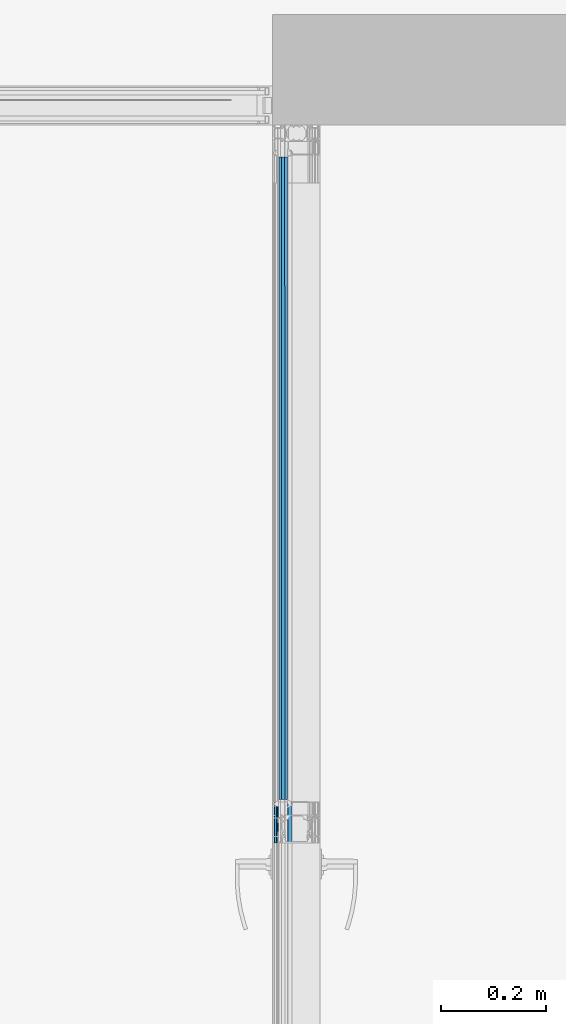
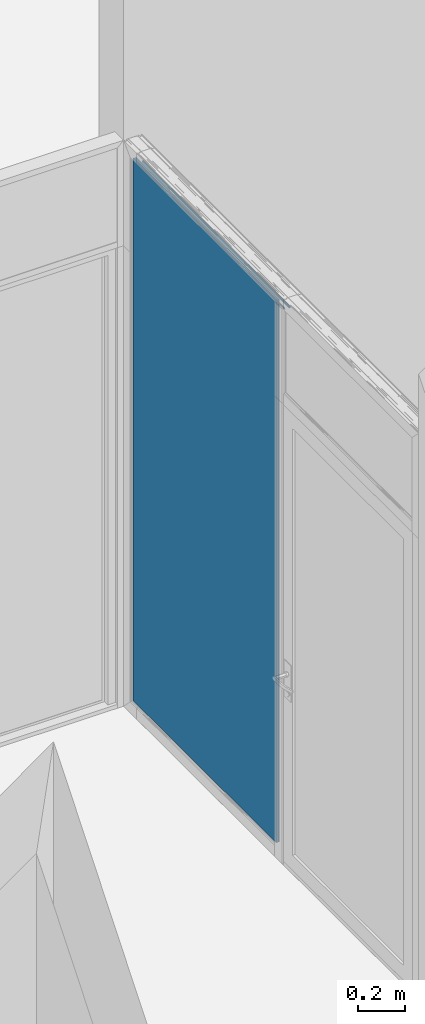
# One storey, part 46 of 62: 3 building element parts, 3 elements without a shape of their own.
"""IFC2X3 building model written with IfcOpenShell, lengths in millimetres."""

from ifc_helpers import new_model, entity, si_unit, converted_unit, derived_unit, money_unit, direction, frame, origin_with_axes, place, context, subcontext, project, spatial, faceted_brep, material, type_object, element, aggregate, save


model = new_model("IFC2X3")

# Units and contexts
model_context = context("Model", 3, precision=0.01, world=origin_with_axes(), true_north=direction((0.0, 1.0)))
body_context = subcontext(model_context, "Body", "Model", "MODEL_VIEW")
ifc_project = project(units=[si_unit("LENGTHUNIT", "METRE", prefix="MILLI"), si_unit("AREAUNIT", "SQUARE_METRE"), si_unit("VOLUMEUNIT", "CUBIC_METRE"), converted_unit("PLANEANGLEUNIT", "DEGREE", entity("IfcPlaneAngleMeasure", 0.0174532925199), si_unit("PLANEANGLEUNIT", "RADIAN"), dimensions=[0, 0, 0, 0, 0, 0, 0]), si_unit("SOLIDANGLEUNIT", "STERADIAN"), money_unit("EUR"), converted_unit("TIMEUNIT", "Year", entity("IfcTimeMeasure", 31556926.0), si_unit("TIMEUNIT", "SECOND"), dimensions=[0, 0, 1, 0, 0, 0, 0]), si_unit("MASSUNIT", "GRAM", prefix="KILO"), si_unit("THERMODYNAMICTEMPERATUREUNIT", "DEGREE_CELSIUS"), si_unit("LUMINOUSINTENSITYUNIT", "LUMEN"), si_unit("ENERGYUNIT", "JOULE", prefix="MEGA"), derived_unit("THERMALCONDUCTANCEUNIT", [(si_unit("POWERUNIT", "WATT"), 1), (si_unit("LENGTHUNIT", "METRE"), -1), (si_unit("THERMODYNAMICTEMPERATUREUNIT", "KELVIN"), -1)]), derived_unit("SPECIFICHEATCAPACITYUNIT", [(si_unit("ENERGYUNIT", "JOULE"), 1), (si_unit("MASSUNIT", "GRAM", prefix="KILO"), -1), (si_unit("THERMODYNAMICTEMPERATUREUNIT", "KELVIN"), -1)]), derived_unit("MASSDENSITYUNIT", [(si_unit("MASSUNIT", "GRAM", prefix="KILO"), 1), (si_unit("VOLUMEUNIT", "CUBIC_METRE"), -1)])], contexts=[model_context])

# Site, building, storey
site_placement = place(None, origin_with_axes())
site = spatial("IfcSite", under=ifc_project, at=site_placement, Name="Puškini 31, Narva", CompositionType="ELEMENT")
building_placement = place(site_placement, origin_with_axes())
building = spatial("IfcBuilding", under=site, at=building_placement, Name="Narva Riigigümnaasium", CompositionType="ELEMENT")
storey_placement = place(building_placement, frame((0.0, 0.0, 660.0), z_axis=(0.0, 0.0, 1.0), x_axis=(1.0, 0.0, 0.0)))
storey = spatial("IfcBuildingStorey", under=building, at=storey_placement, Name="2.korrus +0.66", CompositionType="ELEMENT", Elevation=660.0)

# Curtain wall, plate, building element parts, member
curtain_wall_type = type_object("IfcCurtainWallType", Name="Curtain Wall Type", PredefinedType="NOTDEFINED")
curtain_wall_placement = place(storey_placement, frame((47544.998162, 221675.502168, -2.45869393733e-05), z_axis=(0.0, 0.0, 1.0), x_axis=(1.0, 0.0, 0.0)))
curtain_wall = element("IfcCurtainWall", 1, at=curtain_wall_placement, inside=storey, type_object=curtain_wall_type, Name="G-SKLF-51")
plate_type = type_object("IfcPlateType", Name="79 x 519 x 20", PredefinedType="CURTAIN_PANEL")
plate_placement = place(curtain_wall_placement, frame((-0.00644162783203, 1502.05634572, 1516.66668033), z_axis=(0.0, 0.0, 1.0), x_axis=(-4.28853941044e-06, 0.999999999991, 0.0)))
plate = element("IfcPlate", 2, at=plate_placement, type_object=plate_type, Name="G-SKLF-51-klaas", ObjectType="CURTAIN_PANEL")
ifc_material_1 = material(Name="VKR-05_Klaas")
building_element_part_1_placement = place(plate_placement, origin_with_axes())
building_element_part_1 = element("IfcBuildingElementPart", 3, at=building_element_part_1_placement, material=ifc_material_1, Name="VKR-05_Klaas", context=body_context, shape_type="Brep", body=[
    faceted_brep([(-660.189357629, 17.0, 1372.16865298), (561.276938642, 17.0, 1372.16865298), (561.276938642, 22.0, 1372.16865298), (-660.189357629, 22.0, 1372.16865298), (-660.189357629, 17.0, -1455.50198905), (561.276938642, 17.0, -1455.50198905), (561.276938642, 22.0, -1455.50198905), (-660.189357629, 22.0, -1455.50198905)], [[[0, 1, 2, 3]], [[0, 4, 5, 1]], [[1, 5, 6, 2]], [[3, 2, 6, 7]], [[4, 0, 3, 7]], [[5, 4, 7, 6]]]),
    faceted_brep([(-660.189357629, 28.0, 1372.16865298), (561.276938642, 28.0, 1372.16865298), (561.276938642, 33.0, 1372.16865298), (-660.189357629, 33.0, 1372.16865298), (-660.189357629, 28.0, -1455.50198905), (561.276938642, 28.0, -1455.50198905), (561.276938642, 33.0, -1455.50198905), (-660.189357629, 33.0, -1455.50198905)], [[[0, 1, 2, 3]], [[0, 4, 5, 1]], [[1, 5, 6, 2]], [[3, 2, 6, 7]], [[4, 0, 3, 7]], [[5, 4, 7, 6]]]),
])
ifc_material_2 = material(Name="VKR-06_Õhkvahe")
building_element_part_2_placement = place(plate_placement, origin_with_axes())
building_element_part_2 = element("IfcBuildingElementPart", 4, at=building_element_part_2_placement, material=ifc_material_2, Name="VKR-06_Õhkvahe", context=body_context, shape_type="Brep", body=[
    faceted_brep([(-660.189357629, 22.0, 1372.16865298), (561.276938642, 22.0, 1372.16865298), (561.276938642, 28.0, 1372.16865298), (-660.189357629, 28.0, 1372.16865298), (-660.189357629, 22.0, -1455.50198905), (561.276938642, 22.0, -1455.50198905), (561.276938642, 28.0, -1455.50198905), (-660.189357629, 28.0, -1455.50198905)], [[[0, 1, 2, 3]], [[0, 4, 5, 1]], [[1, 5, 6, 2]], [[3, 2, 6, 7]], [[4, 0, 3, 7]], [[5, 4, 7, 6]]]),
])
aggregate(plate, [building_element_part_1, building_element_part_2])
member_type = type_object("IfcMemberType", Name="61 x 45", PredefinedType="MULLION")
member_placement = place(curtain_wall_placement, frame((-0.00325715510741, 759.502197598, 2950.00002459), z_axis=(-4.28853941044e-06, 0.999999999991, 0.0), x_axis=(0.0, 0.0, -1.0)))
member = element("IfcMember", 5, at=member_placement, type_object=member_type, Name="G-SKLF-69-raam", ObjectType="MULLION")
aggregate(curtain_wall, [member, plate])
ifc_material_3 = material(Name="Membraan - Veekindel")
building_element_part_3_placement = place(member_placement, origin_with_axes())
building_element_part_3 = element("IfcBuildingElementPart", 6, at=building_element_part_3_placement, material=ifc_material_3, Name="Membraan - Veekindel", context=body_context, shape_type="Brep", body=[
    faceted_brep([(61.0413385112, 34.3890442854, -4.50964250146e-07), (59.5800222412, 34.73794757, -4.50964250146e-07), (59.5800222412, 34.73794757, 1255.0), (61.0413385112, 34.3890442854, 1255.0), (61.1536677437, 34.1934467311, -4.50964250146e-07), (61.1423164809, 33.9681748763, -4.50964250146e-07), (61.0108941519, 33.784859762, -4.50964250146e-07), (60.7381535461, 33.9217644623, -4.50964250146e-07), (59.8409257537, 34.1343131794, -4.50964250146e-07), (58.2346494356, 34.5489145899, -4.50964250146e-07), (56.9567944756, 35.6067920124, -4.50964250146e-07), (56.2495873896, 37.1074172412, -4.50964250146e-07), (56.1542959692, 37.3107917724, -4.50964250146e-07), (55.9795989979, 37.4519392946, -4.50964250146e-07), (55.7607444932, 37.5023809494, -4.50964250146e-07), (55.1093263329, 37.5023809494, -4.50964250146e-07), (54.8593263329, 37.4353936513, -4.50964250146e-07), (54.676313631, 37.2523809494, -4.50964250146e-07), (54.2721684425, 36.5523809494, -4.50964250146e-07), (54.0891557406, 36.3693682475, -4.50964250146e-07), (53.8391557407, 36.3023809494, -4.50964250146e-07), (51.602145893, 36.3023809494, -4.50964250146e-07), (51.352145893, 36.3693682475, -4.50964250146e-07), (51.1691331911, 36.5523809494, -4.50964250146e-07), (50.7649880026, 37.2523809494, -4.50964250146e-07), (50.5819753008, 37.4353936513, -4.50964250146e-07), (50.3319753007, 37.5023809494, -4.50964250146e-07), (49.2206527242, 37.5023809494, -4.50964250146e-07), (48.9706527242, 37.5693682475, -4.50964250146e-07), (48.7876400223, 37.7523809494, -4.50964250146e-07), (48.7206527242, 38.0023809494, -4.50964250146e-07), (48.7206527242, 39.1999494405, -4.50964250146e-07), (50.10004, 39.1999494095, -4.50964250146e-07), (50.1670287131, 38.9499497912, -4.50964250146e-07), (50.3500424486, 38.7669381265, -4.50964250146e-07), (50.6000428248, 38.699952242, -4.50964250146e-07), (50.8500424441, 38.7669409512, -4.50964250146e-07), (51.0330541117, 38.9499546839, -4.50964250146e-07), (51.10004, 39.1999550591, -4.50964250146e-07), (51.10004, 40.4999366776, -4.50964250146e-07), (51.0598476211, 40.6499366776, -4.50964250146e-07), (50.95004, 40.7597442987, -4.50964250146e-07), (50.80004, 40.7999366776, -4.50964250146e-07), (50.7000457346, 40.7999366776, -4.50964250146e-07), (50.5334025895, 40.8504763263, -4.50964250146e-07), (50.4229059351, 40.9850671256, -4.50964250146e-07), (50.4057850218, 41.1583618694, -4.50964250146e-07), (50.4878083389, 41.3119729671, -4.50964250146e-07), (51.5281601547, 42.3533311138, -4.50964250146e-07), (51.6904310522, 42.4618421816, -4.50964250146e-07), (51.8818844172, 42.4999486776, -4.50964250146e-07), (53.517932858, 42.4999486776, -4.50964250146e-07), (53.7093558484, 42.4618547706, -4.50964250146e-07), (53.8716106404, 42.3533776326, -4.50964250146e-07), (54.9122350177, 41.3120206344, -4.50964250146e-07), (54.9942836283, 41.1584047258, -4.50964250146e-07), (54.9771753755, 40.9850924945, -4.50964250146e-07), (54.866675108, 40.850483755, -4.50964250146e-07), (54.7000173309, 40.7999366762, -4.50964250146e-07), (54.6000210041, 40.7999366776, -4.50964250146e-07), (54.4500210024, 40.7597443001, -4.50964250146e-07), (54.3402133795, 40.6499366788, -4.50964250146e-07), (54.300021, 40.4999366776, -4.50964250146e-07), (54.300021, 39.1999606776, -4.50964250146e-07), (54.3670082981, 38.9499606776, -4.50964250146e-07), (54.5500210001, 38.7669479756, -4.50964250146e-07), (54.8000210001, 38.6999606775, -4.50964250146e-07), (55.0500210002, 38.7669479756, -4.50964250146e-07), (55.2330337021, 38.9499606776, -4.50964250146e-07), (55.3000210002, 39.1999606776, -4.50964250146e-07), (57.3000022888, 39.1999494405, -4.50964250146e-07), (57.3000022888, 39.9999846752, -4.50964250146e-07), (57.5000161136, 39.946391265, -4.50964250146e-07), (57.6464370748, 39.799971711, -4.50964250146e-07), (57.7000324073, 39.5999584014, -4.50964250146e-07), (57.9693613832, 36.5265882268, -4.50964250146e-07), (58.4755028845, 35.3628499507, -4.50964250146e-07), (53.5000340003, 40.7999553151, -4.50964250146e-07), (53.4330491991, 41.0499459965, -4.50964250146e-07), (53.2500433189, 41.2329518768, -4.50964250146e-07), (53.0000526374, 41.299936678, -4.50964250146e-07), (52.4000083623, 41.299936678, -4.50964250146e-07), (52.150017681, 41.2329518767, -4.50964250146e-07), (51.9670118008, 41.0499459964, -4.50964250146e-07), (51.9000269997, 40.799955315, -4.50964250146e-07), (51.9000269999, 39.6999268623, -4.50964250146e-07), (51.9670129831, 39.4499317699, -4.50964250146e-07), (52.1500220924, 39.2669226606, -4.50964250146e-07), (52.4000171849, 39.1999366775, -4.50964250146e-07), (53.0000438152, 39.1999366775, -4.50964250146e-07), (53.2500389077, 39.2669226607, -4.50964250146e-07), (53.433048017, 39.44993177, -4.50964250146e-07), (58.4755028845, 35.3628499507, 1255.0), (57.9693613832, 36.5265882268, 1255.0), (57.7000324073, 39.5999584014, 1255.0), (57.6464370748, 39.799971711, 1255.0), (57.5000161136, 39.946391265, 1255.0), (57.3000022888, 39.9999846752, 1255.0), (57.3000022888, 39.1999494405, 1255.0), (55.3000210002, 39.1999606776, 1255.0), (55.2330337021, 38.9499606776, 1255.0), (55.0500210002, 38.7669479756, 1255.0), (54.8000210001, 38.6999606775, 1255.0), (54.5500210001, 38.7669479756, 1255.0), (54.3670082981, 38.9499606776, 1255.0), (54.300021, 39.1999606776, 1255.0), (54.300021, 40.4999366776, 1255.0), (54.3402133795, 40.6499366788, 1255.0), (54.4500210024, 40.7597443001, 1255.0), (54.6000210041, 40.7999366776, 1255.0), (54.7000173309, 40.7999366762, 1255.0), (54.866675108, 40.850483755, 1255.0), (54.9771753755, 40.9850924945, 1255.0), (54.9942836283, 41.1584047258, 1255.0), (54.9122350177, 41.3120206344, 1255.0), (53.8716106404, 42.3533776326, 1255.0), (53.7093558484, 42.4618547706, 1255.0), (53.517932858, 42.4999486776, 1255.0), (51.8818844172, 42.4999486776, 1255.0), (51.6904310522, 42.4618421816, 1255.0), (51.5281601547, 42.3533311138, 1255.0), (50.4878083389, 41.3119729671, 1255.0), (50.4057850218, 41.1583618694, 1255.0), (50.4229059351, 40.9850671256, 1255.0), (50.5334025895, 40.8504763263, 1255.0), (50.7000457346, 40.7999366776, 1255.0), (50.80004, 40.7999366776, 1255.0), (50.95004, 40.7597442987, 1255.0), (51.0598476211, 40.6499366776, 1255.0), (51.10004, 40.4999366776, 1255.0), (51.10004, 39.1999550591, 1255.0), (51.0330541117, 38.9499546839, 1255.0), (50.8500424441, 38.7669409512, 1255.0), (50.6000428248, 38.699952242, 1255.0), (50.3500424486, 38.7669381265, 1255.0), (50.1670287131, 38.9499497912, 1255.0), (50.10004, 39.1999494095, 1255.0), (48.7206527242, 39.1999494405, 1255.0), (48.7206527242, 38.0023809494, 1255.0), (48.7876400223, 37.7523809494, 1255.0), (48.9706527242, 37.5693682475, 1255.0), (49.2206527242, 37.5023809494, 1255.0), (50.3319753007, 37.5023809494, 1255.0), (50.5819753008, 37.4353936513, 1255.0), (50.7649880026, 37.2523809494, 1255.0), (51.1691331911, 36.5523809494, 1255.0), (51.352145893, 36.3693682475, 1255.0), (51.602145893, 36.3023809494, 1255.0), (53.8391557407, 36.3023809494, 1255.0), (54.0891557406, 36.3693682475, 1255.0), (54.2721684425, 36.5523809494, 1255.0), (54.676313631, 37.2523809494, 1255.0), (54.8593263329, 37.4353936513, 1255.0), (55.1093263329, 37.5023809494, 1255.0), (55.7607444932, 37.5023809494, 1255.0), (55.9795989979, 37.4519392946, 1255.0), (56.1542959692, 37.3107917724, 1255.0), (56.2495873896, 37.1074172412, 1255.0), (56.9567944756, 35.6067920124, 1255.0), (58.2346494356, 34.5489145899, 1255.0), (59.8409257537, 34.1343131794, 1255.0), (60.7381535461, 33.9217644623, 1255.0), (61.0108941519, 33.784859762, 1255.0), (61.1423164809, 33.9681748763, 1255.0), (61.1536677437, 34.1934467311, 1255.0), (53.5000340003, 40.7999553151, 1255.0), (53.433048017, 39.44993177, 1255.0), (53.2500389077, 39.2669226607, 1255.0), (53.0000438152, 39.1999366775, 1255.0), (52.4000171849, 39.1999366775, 1255.0), (52.1500220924, 39.2669226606, 1255.0), (51.9670129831, 39.4499317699, 1255.0), (51.9000269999, 39.6999268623, 1255.0), (51.9000269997, 40.799955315, 1255.0), (51.9670118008, 41.0499459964, 1255.0), (52.150017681, 41.2329518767, 1255.0), (52.4000083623, 41.299936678, 1255.0), (53.0000526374, 41.299936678, 1255.0), (53.2500433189, 41.2329518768, 1255.0), (53.4330491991, 41.0499459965, 1255.0)], [[[0, 1, 2, 3]], [[0, 4, 5, 6, 7, 8, 9, 10, 11, 12, 13, 14, 15, 16, 17, 18, 19, 20, 21, 22, 23, 24, 25, 26, 27, 28, 29, 30, 31, 32, 33, 34, 35, 36, 37, 38, 39, 40, 41, 42, 43, 44, 45, 46, 47, 48, 49, 50, 51, 52, 53, 54, 55, 56, 57, 58, 59, 60, 61, 62, 63, 64, 65, 66, 67, 68, 69, 70, 71, 72, 73, 74, 75, 76, 1], [77, 78, 79, 80, 81, 82, 83, 84, 85, 86, 87, 88, 89, 90, 91]], [[1, 76, 92, 2]], [[3, 2, 92, 93, 94, 95, 96, 97, 98, 99, 100, 101, 102, 103, 104, 105, 106, 107, 108, 109, 110, 111, 112, 113, 114, 115, 116, 117, 118, 119, 120, 121, 122, 123, 124, 125, 126, 127, 128, 129, 130, 131, 132, 133, 134, 135, 136, 137, 138, 139, 140, 141, 142, 143, 144, 145, 146, 147, 148, 149, 150, 151, 152, 153, 154, 155, 156, 157, 158, 159, 160, 161, 162, 163, 164], [165, 166, 167, 168, 169, 170, 171, 172, 173, 174, 175, 176, 177, 178, 179]], [[4, 0, 3, 164]], [[5, 4, 164, 163]], [[6, 5, 163, 162]], [[7, 6, 162, 161]], [[8, 7, 161, 160]], [[9, 8, 160, 159]], [[10, 9, 159, 158]], [[11, 10, 158, 157]], [[12, 11, 157, 156]], [[13, 12, 156, 155]], [[14, 13, 155, 154]], [[15, 14, 154, 153]], [[16, 15, 153, 152]], [[17, 16, 152, 151]], [[18, 17, 151, 150]], [[19, 18, 150, 149]], [[20, 19, 149, 148]], [[21, 20, 148, 147]], [[22, 21, 147, 146]], [[23, 22, 146, 145]], [[24, 23, 145, 144]], [[25, 24, 144, 143]], [[26, 25, 143, 142]], [[27, 26, 142, 141]], [[28, 27, 141, 140]], [[29, 28, 140, 139]], [[30, 29, 139, 138]], [[31, 30, 138, 137]], [[32, 31, 137, 136]], [[33, 32, 136, 135]], [[34, 33, 135, 134]], [[35, 34, 134, 133]], [[36, 35, 133, 132]], [[37, 36, 132, 131]], [[38, 37, 131, 130]], [[39, 38, 130, 129]], [[40, 39, 129, 128]], [[41, 40, 128, 127]], [[42, 41, 127, 126]], [[43, 42, 126, 125]], [[44, 43, 125, 124]], [[45, 44, 124, 123]], [[46, 45, 123, 122]], [[47, 46, 122, 121]], [[48, 47, 121, 120]], [[49, 48, 120, 119]], [[50, 49, 119, 118]], [[51, 50, 118, 117]], [[52, 51, 117, 116]], [[53, 52, 116, 115]], [[54, 53, 115, 114]], [[55, 54, 114, 113]], [[56, 55, 113, 112]], [[57, 56, 112, 111]], [[58, 57, 111, 110]], [[59, 58, 110, 109]], [[60, 59, 109, 108]], [[61, 60, 108, 107]], [[62, 61, 107, 106]], [[63, 62, 106, 105]], [[64, 63, 105, 104]], [[65, 64, 104, 103]], [[66, 65, 103, 102]], [[67, 66, 102, 101]], [[68, 67, 101, 100]], [[69, 68, 100, 99]], [[70, 69, 99, 98]], [[71, 70, 98, 97]], [[72, 71, 97, 96]], [[73, 72, 96, 95]], [[74, 73, 95, 94]], [[75, 74, 94, 93]], [[76, 75, 93, 92]], [[78, 77, 165, 179]], [[79, 78, 179, 178]], [[80, 79, 178, 177]], [[81, 80, 177, 176]], [[82, 81, 176, 175]], [[83, 82, 175, 174]], [[84, 83, 174, 173]], [[85, 84, 173, 172]], [[86, 85, 172, 171]], [[87, 86, 171, 170]], [[88, 87, 170, 169]], [[89, 88, 169, 168]], [[90, 89, 168, 167]], [[91, 90, 167, 166]], [[77, 91, 166, 165]]]),
    faceted_brep([(59.0307115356, 16.554149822, -4.50964250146e-07), (55.9926715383, 16.8063498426, -4.50964250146e-07), (55.9926715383, 16.8063498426, 1255.0), (59.0307115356, 16.554149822, 1255.0), (59.3884652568, 16.1092618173, -4.50964250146e-07), (59.5001582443, 15.5494067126, -4.50964250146e-07), (59.3405112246, 15.0012955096, -4.50964250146e-07), (57.5418652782, 10.0035930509, -4.50964250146e-07), (57.2632233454, 8.46932121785, -4.50964250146e-07), (57.1824204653, 8.36745448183, -4.50964250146e-07), (57.0661058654, 8.3093438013, -4.50964250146e-07), (56.9361285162, 8.30590490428, -4.50964250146e-07), (55.5361285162, 8.57803733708, -4.50964250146e-07), (55.4168250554, 8.62997353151, -4.50964250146e-07), (55.3307332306, 8.72753828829, -4.50964250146e-07), (55.2940485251, 8.85237785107, -4.50964250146e-07), (55.4099827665, 9.81272116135, -4.50964250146e-07), (55.3838261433, 9.9780831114, -4.50964250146e-07), (55.2731258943, 10.1036784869, -4.50964250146e-07), (55.1123574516, 10.1503930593, -4.50964250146e-07), (53.0580290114, 10.1503930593, -4.50964250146e-07), (52.8859560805, 10.0961386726, -4.50964250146e-07), (52.7761212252, 9.95299910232, -4.50964250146e-07), (52.3556584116, 8.79778701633, -4.50964250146e-07), (52.2574645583, 8.66326410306, -4.50964250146e-07), (52.1026310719, 8.60190419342, -4.50964250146e-07), (51.938943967, 8.6326446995, -4.50964250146e-07), (51.8169217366, 8.74599822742, -4.50964250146e-07), (45.6142070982, 15.4144760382, -4.50964250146e-07), (45.3418968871, 15.7688623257, -4.50964250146e-07), (45.3195226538, 16.2152275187, -4.50964250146e-07), (45.3889077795, 16.3899097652, -4.50964250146e-07), (45.6241929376, 16.6482027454, -4.50964250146e-07), (45.950966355, 16.7718696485, -4.50964250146e-07), (46.298307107, 16.7340705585, -4.50964250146e-07), (50.5536994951, 15.2121179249, -4.50964250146e-07), (50.8437237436, 15.0307134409, -4.50964250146e-07), (51.0558924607, 14.9074036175, -4.50964250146e-07), (51.3011765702, 14.8998814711, -4.50964250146e-07), (51.5205025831, 15.0099586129, -4.50964250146e-07), (53.1225200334, 16.3483062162, -4.50964250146e-07), (53.7899070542, 16.6230039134, -4.50964250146e-07), (53.7899070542, 16.6230039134, 1255.0), (53.1225200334, 16.3483062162, 1255.0), (51.5205025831, 15.0099586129, 1255.0), (51.3011765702, 14.8998814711, 1255.0), (51.0558924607, 14.9074036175, 1255.0), (50.8437237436, 15.0307134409, 1255.0), (50.5536994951, 15.2121179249, 1255.0), (46.298307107, 16.7340705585, 1255.0), (45.950966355, 16.7718696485, 1255.0), (45.6241929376, 16.6482027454, 1255.0), (45.3889077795, 16.3899097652, 1255.0), (45.3195226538, 16.2152275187, 1255.0), (45.3418968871, 15.7688623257, 1255.0), (45.6142070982, 15.4144760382, 1255.0), (51.8169217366, 8.74599822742, 1255.0), (51.938943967, 8.6326446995, 1255.0), (52.1026310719, 8.60190419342, 1255.0), (52.2574645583, 8.66326410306, 1255.0), (52.3556584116, 8.79778701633, 1255.0), (52.7761212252, 9.95299910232, 1255.0), (52.8859560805, 10.0961386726, 1255.0), (53.0580290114, 10.1503930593, 1255.0), (55.1123574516, 10.1503930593, 1255.0), (55.2731258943, 10.1036784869, 1255.0), (55.3838261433, 9.9780831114, 1255.0), (55.4099827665, 9.81272116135, 1255.0), (55.2940485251, 8.85237785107, 1255.0), (55.3307332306, 8.72753828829, 1255.0), (55.4168250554, 8.62997353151, 1255.0), (55.5361285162, 8.57803733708, 1255.0), (56.9361285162, 8.30590490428, 1255.0), (57.0661058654, 8.3093438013, 1255.0), (57.1824204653, 8.36745448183, 1255.0), (57.2632233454, 8.46932121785, 1255.0), (57.5418652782, 10.0035930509, 1255.0), (59.3405112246, 15.0012955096, 1255.0), (59.5001582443, 15.5494067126, 1255.0), (59.3884652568, 16.1092618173, 1255.0)], [[[0, 1, 2, 3]], [[0, 4, 5, 6, 7, 8, 9, 10, 11, 12, 13, 14, 15, 16, 17, 18, 19, 20, 21, 22, 23, 24, 25, 26, 27, 28, 29, 30, 31, 32, 33, 34, 35, 36, 37, 38, 39, 40, 41, 1]], [[1, 41, 42, 2]], [[3, 2, 42, 43, 44, 45, 46, 47, 48, 49, 50, 51, 52, 53, 54, 55, 56, 57, 58, 59, 60, 61, 62, 63, 64, 65, 66, 67, 68, 69, 70, 71, 72, 73, 74, 75, 76, 77, 78, 79]], [[4, 0, 3, 79]], [[5, 4, 79, 78]], [[6, 5, 78, 77]], [[7, 6, 77, 76]], [[8, 7, 76, 75]], [[9, 8, 75, 74]], [[10, 9, 74, 73]], [[11, 10, 73, 72]], [[12, 11, 72, 71]], [[13, 12, 71, 70]], [[14, 13, 70, 69]], [[15, 14, 69, 68]], [[16, 15, 68, 67]], [[17, 16, 67, 66]], [[18, 17, 66, 65]], [[19, 18, 65, 64]], [[20, 19, 64, 63]], [[21, 20, 63, 62]], [[22, 21, 62, 61]], [[23, 22, 61, 60]], [[24, 23, 60, 59]], [[25, 24, 59, 58]], [[26, 25, 58, 57]], [[27, 26, 57, 56]], [[28, 27, 56, 55]], [[29, 28, 55, 54]], [[30, 29, 54, 53]], [[31, 30, 53, 52]], [[32, 31, 52, 51]], [[33, 32, 51, 50]], [[34, 33, 50, 49]], [[35, 34, 49, 48]], [[36, 35, 48, 47]], [[37, 36, 47, 46]], [[38, 37, 46, 45]], [[39, 38, 45, 44]], [[40, 39, 44, 43]], [[41, 40, 43, 42]]]),
])
aggregate(member, [building_element_part_3])

save(model, "model.ifc")
